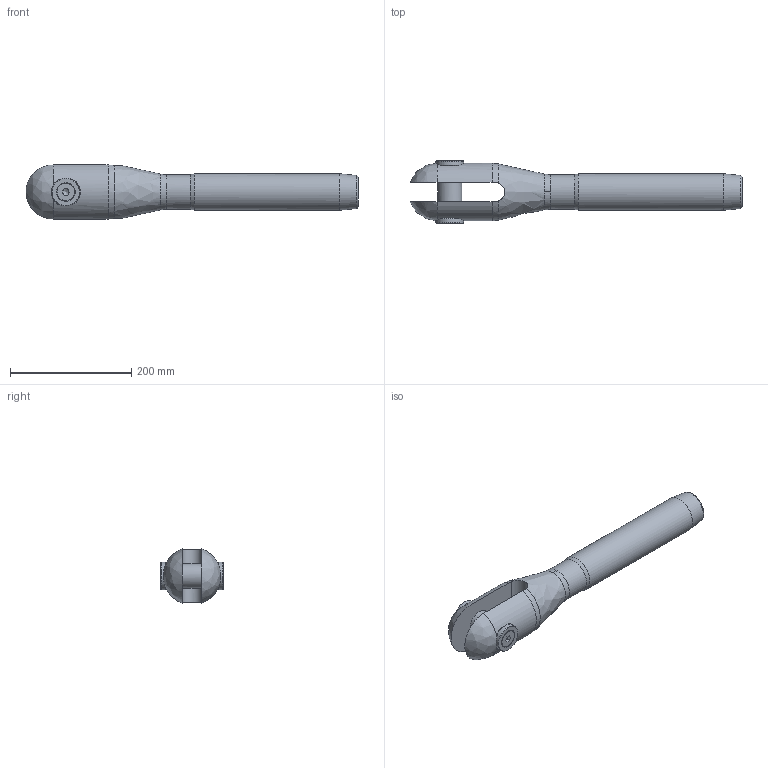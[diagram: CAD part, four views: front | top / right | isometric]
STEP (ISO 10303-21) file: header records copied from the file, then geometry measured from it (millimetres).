
FILE_DESCRIPTION(/* description */ (''),/* implementation_level */ '2;1');
FILE_NAME(/* name */ 'MAC 30_42CrMo4',/* time_stamp */ '2023-05-23T16:55:21+02:00',/* author */ (''),/* organization */ (''),/* preprocessor_version */ 'ST-DEVELOPER v16.5',/* originating_system */ 'Rhino 7.22',/* authorisation */ '');
FILE_SCHEMA (('CONFIG_CONTROL_DESIGN'));
Length unit declared in the file: millimetre
Products named in the file (1): Document
Bounding box: 548.72 x 103.21 x 89.45 mm (x, y, z)
Volume: 1821029.6 mm3; surface area: 173776.9 mm2
Topology: 6 solids, 6 shells, 75 faces, 210 edges, 145 vertices
Faces by surface type: plane 29, bspline 24, cylinder 22
Full cylindrical faces by diameter (mm): 13.835 x2, 16 x2, 17 x2, 29.01 x2, 40 x1, 42 x2, 46 x2, 57.2 x1, 60.5 x1
Entity records: 3162 total; most frequent: CARTESIAN_POINT 1815, ORIENTED_EDGE 412, EDGE_CURVE 206, VERTEX_POINT 145, EDGE_LOOP 85, B_SPLINE_CURVE_WITH_KNOTS 84, ADVANCED_FACE 75, FACE_OUTER_BOUND 75
